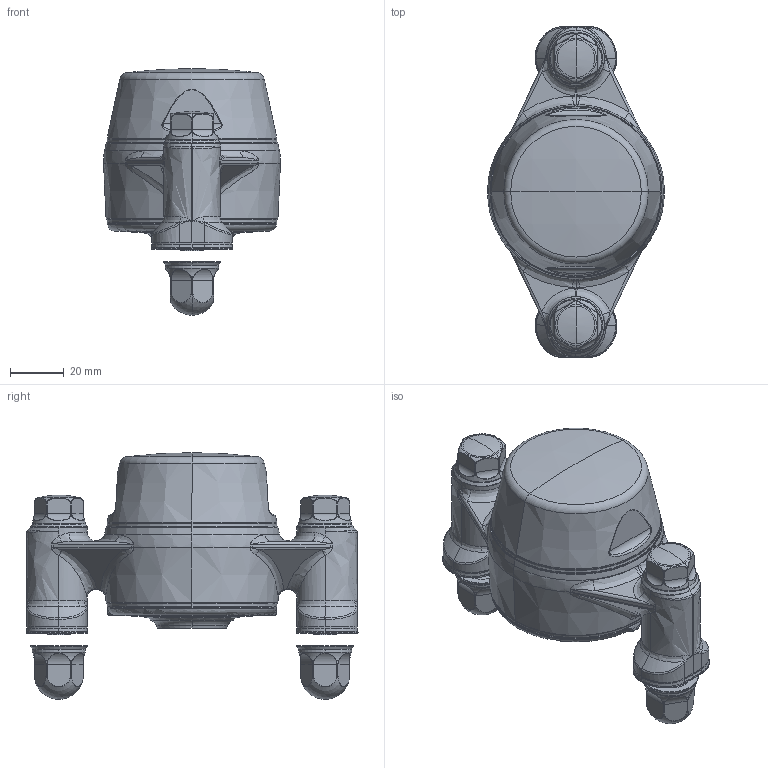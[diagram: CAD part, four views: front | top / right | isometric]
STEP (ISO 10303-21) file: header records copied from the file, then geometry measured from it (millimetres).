
FILE_DESCRIPTION (( 'STEP AP203' ), '1' );
FILE_NAME ('XB2FC52(White)-CSB2500(Front)-CL(Blue)-OS(White)-BXHM1050-NDXHM10_Shell.step', '2020-09-24T06:52:55', ( '' ), ( '' ), 'SwSTEP 2.0', 'SolidWorks 2019', '' );
FILE_SCHEMA (( 'CONFIG_CONTROL_DESIGN' ));
Length unit declared in the file: millimetre
Products named in the file (1): XB2FC52(White)-CSB2500(Front)-CL(Blue)-OS(White)-BXHM1050-NDXHM10_Shell
Bounding box: 65.77 x 123.4 x 91.65 mm (x, y, z)
Surface area: 39432.8 mm2 (no closed solid volume)
Topology: 0 solids, 39 shells, 842 faces, 2803 edges, 1923 vertices
Faces by surface type: bspline 343, cylinder 172, torus 120, plane 104, cone 69, sphere 34
Entity records: 51005 total; most frequent: CARTESIAN_POINT 30412, ORIENTED_EDGE 4495, DIRECTION 3346, EDGE_CURVE 2799, VERTEX_POINT 1923, AXIS2_PLACEMENT_3D 1404, B_SPLINE_CURVE_WITH_KNOTS 1287, EDGE_LOOP 905
